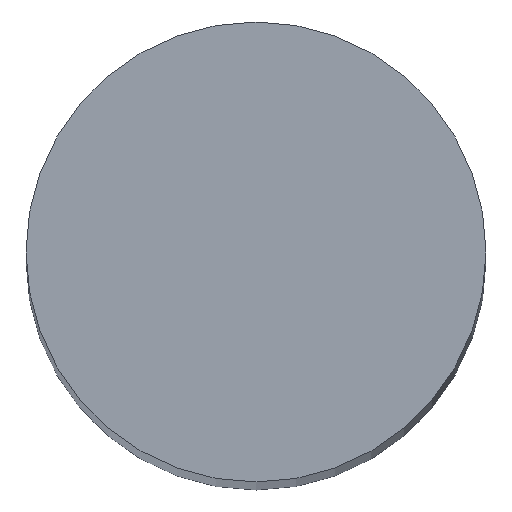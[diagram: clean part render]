
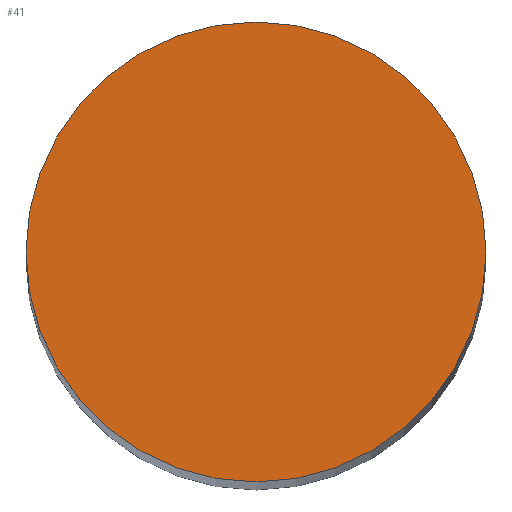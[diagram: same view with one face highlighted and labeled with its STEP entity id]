
A CAD part, top view. The second image highlights one B-rep face of the part: STEP entity #41.
In plain terms, the highlighted planar face has unit normal (0, 0, 1).
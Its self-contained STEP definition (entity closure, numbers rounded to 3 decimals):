
#16=PLANE('',#66);
#19=FACE_OUTER_BOUND('',#22,.T.);
#22=EDGE_LOOP('',(#37));
#25=CIRCLE('',#63,10.);
#27=VERTEX_POINT('',#82);
#29=EDGE_CURVE('',#27,#27,#25,.T.);
#37=ORIENTED_EDGE('',*,*,#29,.T.);
#41=ADVANCED_FACE('',(#19),#16,.T.);
#63=AXIS2_PLACEMENT_3D('',#83,#71,#72);
#66=AXIS2_PLACEMENT_3D('',#88,#78,#79);
#71=DIRECTION('center_axis',(0.,0.,1.));
#72=DIRECTION('ref_axis',(-1.,0.,0.));
#78=DIRECTION('center_axis',(0.,0.,1.));
#79=DIRECTION('ref_axis',(1.,0.,0.));
#82=CARTESIAN_POINT('',(10.,0.,200.));
#83=CARTESIAN_POINT('Origin',(0.,0.,200.));
#88=CARTESIAN_POINT('Origin',(0.,0.,200.));
